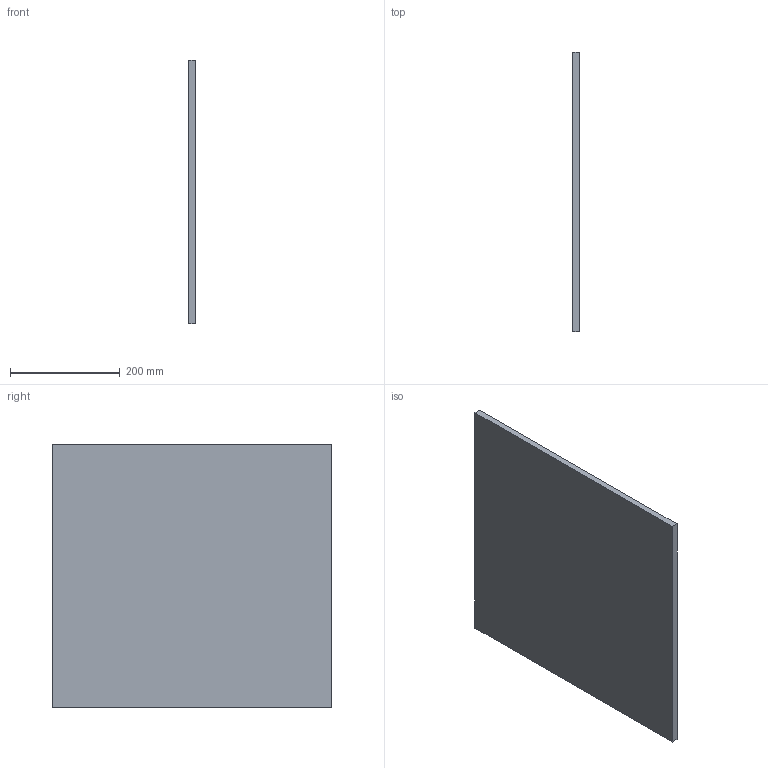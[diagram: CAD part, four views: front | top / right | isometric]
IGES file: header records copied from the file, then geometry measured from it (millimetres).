
Start section: Data from Parasolid IGES Translator 19.0.9, Copyright(c) 2006 Siemens PL M Software. All Rights Reserved.
Global section: file name: noorth-SI-H 48 D 51 W 1,2_9693.igs; native system: By Siemens PLM Incorporated; preprocessor: XPlus GENERIC/IGES 19.0.9; author: Noname; organization: Noname; date: 20200710.084602; units: metre
Bounding box: 12 x 508 x 480 mm (x, y, z)
Volume: 2926080 mm3; surface area: 511392 mm2
Topology: 1 solids, 1 shells, 6 faces, 12 edges, 8 vertices
Faces by surface type: plane 6
